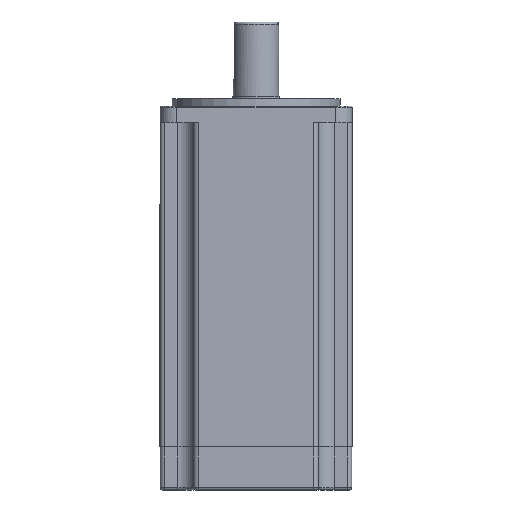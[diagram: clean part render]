
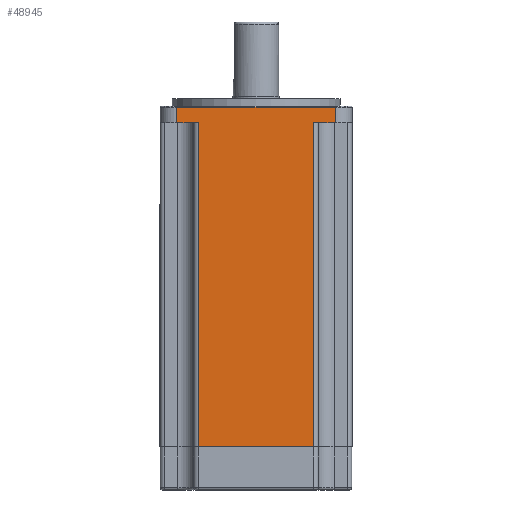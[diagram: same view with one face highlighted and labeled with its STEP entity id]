
A CAD part, front view. The second image highlights one B-rep face of the part: STEP entity #48945.
In plain terms, the highlighted planar face has unit normal (0, -1, 0).
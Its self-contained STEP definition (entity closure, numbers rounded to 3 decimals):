
#612 = DIRECTION ( 'NONE',  ( -1., 0., 0. ) ) ;
#652 = ORIENTED_EDGE ( 'NONE', *, *, #12143, .T. ) ;
#1060 = VECTOR ( 'NONE', #13217, 1000. ) ;
#1618 = VECTOR ( 'NONE', #612, 1000. ) ;
#2391 = DIRECTION ( 'NONE',  ( 0., 1., 0. ) ) ;
#2529 = VECTOR ( 'NONE', #26153, 1000. ) ;
#2963 = LINE ( 'NONE', #30059, #1618 ) ;
#3862 = EDGE_CURVE ( 'NONE', #41846, #48417, #29471, .T. ) ;
#4131 = EDGE_CURVE ( 'NONE', #12384, #48417, #27468, .T. ) ;
#4885 = VERTEX_POINT ( 'NONE', #27826 ) ;
#5999 = ORIENTED_EDGE ( 'NONE', *, *, #41690, .F. ) ;
#6600 = CARTESIAN_POINT ( 'NONE',  ( -33., -40., -7. ) ) ;
#7670 = CARTESIAN_POINT ( 'NONE',  ( -24., -40., -7. ) ) ;
#7688 = LINE ( 'NONE', #43654, #1060 ) ;
#8343 = AXIS2_PLACEMENT_3D ( 'NONE', #6600, #2391, #36013 ) ;
#9647 = DIRECTION ( 'NONE',  ( -1., 0., 0. ) ) ;
#10220 = LINE ( 'NONE', #27159, #44446 ) ;
#10373 = LINE ( 'NONE', #26291, #36694 ) ;
#12143 = EDGE_CURVE ( 'NONE', #51244, #53738, #7688, .T. ) ;
#12337 = CARTESIAN_POINT ( 'NONE',  ( 24., -40., -142. ) ) ;
#12384 = VERTEX_POINT ( 'NONE', #54395 ) ;
#13217 = DIRECTION ( 'NONE',  ( 0., 0., -1. ) ) ;
#13577 = DIRECTION ( 'NONE',  ( -1., 0., 0. ) ) ;
#15732 = CARTESIAN_POINT ( 'NONE',  ( -33., -40., -7. ) ) ;
#18395 = ORIENTED_EDGE ( 'NONE', *, *, #3862, .F. ) ;
#18913 = PLANE ( 'NONE',  #8343 ) ;
#20019 = EDGE_LOOP ( 'NONE', ( #41123, #22223, #18395, #36913, #652, #5999, #38099, #40553 ) ) ;
#20774 = EDGE_CURVE ( 'NONE', #4885, #12384, #10220, .T. ) ;
#21302 = EDGE_CURVE ( 'NONE', #4885, #46396, #2963, .T. ) ;
#22223 = ORIENTED_EDGE ( 'NONE', *, *, #4131, .T. ) ;
#23661 = CARTESIAN_POINT ( 'NONE',  ( -26., -40., -142. ) ) ;
#26153 = DIRECTION ( 'NONE',  ( 0., 0., 1. ) ) ;
#26207 = CARTESIAN_POINT ( 'NONE',  ( -33., -40., -0.5 ) ) ;
#26291 = CARTESIAN_POINT ( 'NONE',  ( -33., -40., -7. ) ) ;
#27159 = CARTESIAN_POINT ( 'NONE',  ( 33., -40., -7. ) ) ;
#27468 = LINE ( 'NONE', #26207, #36003 ) ;
#27826 = CARTESIAN_POINT ( 'NONE',  ( 33., -40., -7. ) ) ;
#29445 = FACE_OUTER_BOUND ( 'NONE', #20019, .T. ) ;
#29471 = LINE ( 'NONE', #51350, #2529 ) ;
#30059 = CARTESIAN_POINT ( 'NONE',  ( -33., -40., -7. ) ) ;
#31384 = DIRECTION ( 'NONE',  ( 0., 0., 1. ) ) ;
#31808 = VECTOR ( 'NONE', #40226, 1000. ) ;
#34503 = DIRECTION ( 'NONE',  ( 0., 0., 1. ) ) ;
#35299 = CARTESIAN_POINT ( 'NONE',  ( 24., -40., -7. ) ) ;
#35588 = CARTESIAN_POINT ( 'NONE',  ( -24., -40., -142. ) ) ;
#36003 = VECTOR ( 'NONE', #9647, 1000. ) ;
#36013 = DIRECTION ( 'NONE',  ( -1., 0., 0. ) ) ;
#36694 = VECTOR ( 'NONE', #13577, 1000. ) ;
#36913 = ORIENTED_EDGE ( 'NONE', *, *, #39804, .F. ) ;
#38099 = ORIENTED_EDGE ( 'NONE', *, *, #49194, .T. ) ;
#38916 = CARTESIAN_POINT ( 'NONE',  ( 24., -40., -7. ) ) ;
#39804 = EDGE_CURVE ( 'NONE', #51244, #41846, #10373, .T. ) ;
#40226 = DIRECTION ( 'NONE',  ( -1., 0., 0. ) ) ;
#40553 = ORIENTED_EDGE ( 'NONE', *, *, #21302, .F. ) ;
#40623 = VECTOR ( 'NONE', #34503, 1000. ) ;
#41123 = ORIENTED_EDGE ( 'NONE', *, *, #20774, .T. ) ;
#41690 = EDGE_CURVE ( 'NONE', #42390, #53738, #44405, .T. ) ;
#41846 = VERTEX_POINT ( 'NONE', #15732 ) ;
#42390 = VERTEX_POINT ( 'NONE', #12337 ) ;
#43654 = CARTESIAN_POINT ( 'NONE',  ( -24., -40., -7. ) ) ;
#44149 = CARTESIAN_POINT ( 'NONE',  ( -33., -40., -0.5 ) ) ;
#44405 = LINE ( 'NONE', #23661, #31808 ) ;
#44446 = VECTOR ( 'NONE', #31384, 1000. ) ;
#46396 = VERTEX_POINT ( 'NONE', #35299 ) ;
#48417 = VERTEX_POINT ( 'NONE', #44149 ) ;
#48945 = ADVANCED_FACE ( 'NONE', ( #29445 ), #18913, .F. ) ;
#49194 = EDGE_CURVE ( 'NONE', #42390, #46396, #50440, .T. ) ;
#50440 = LINE ( 'NONE', #38916, #40623 ) ;
#51244 = VERTEX_POINT ( 'NONE', #7670 ) ;
#51350 = CARTESIAN_POINT ( 'NONE',  ( -33., -40., -7. ) ) ;
#53738 = VERTEX_POINT ( 'NONE', #35588 ) ;
#54395 = CARTESIAN_POINT ( 'NONE',  ( 33., -40., -0.5 ) ) ;
